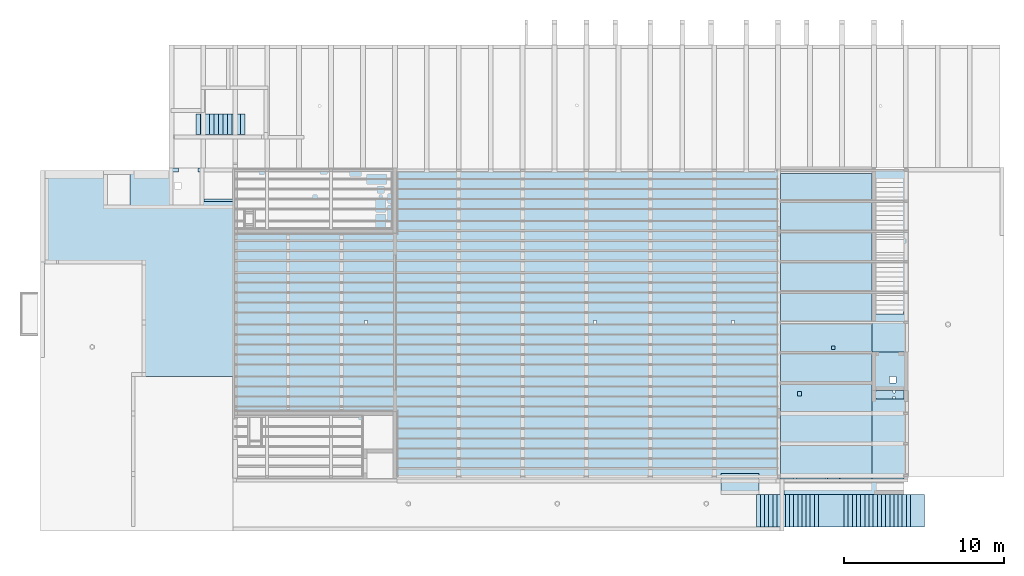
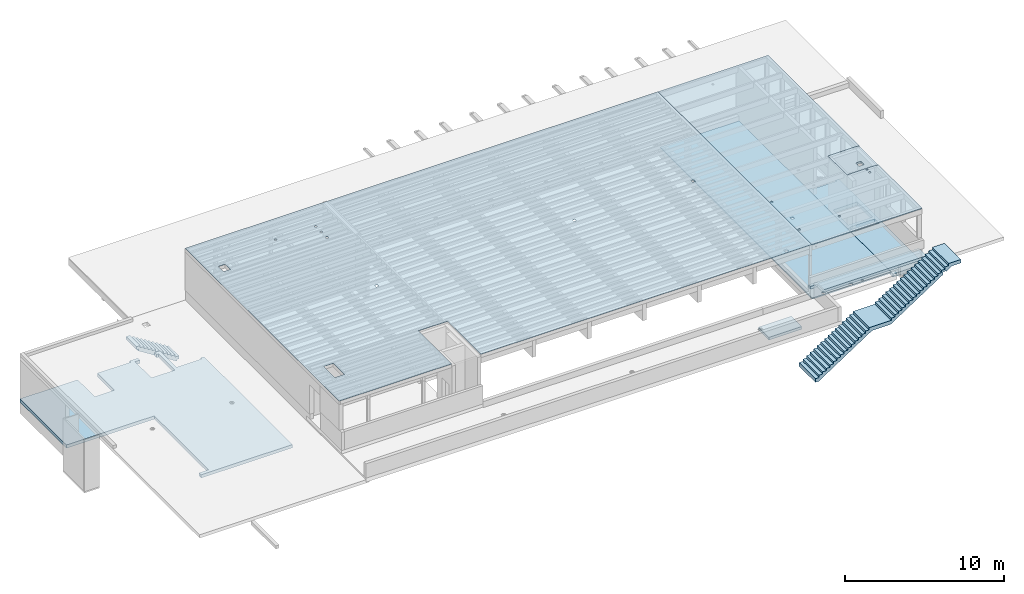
# One storey, part 8 of 14: 10 slabs, 25 openings.
"""IFC2X3 building model written with IfcOpenShell, lengths in metres."""

from ifc_helpers import new_model, entity, si_unit, converted_unit, direction, frame, frame_2d, origin, place, context, subcontext, project, spatial, polyline, circle_curve, parameter, trimmed, segment, composite_curve, rectangle, circle, outline, extrude, boolean, material, layer, layer_set, layer_usage, type_object, element, save


model = new_model("IFC2X3")

# Units and contexts
model_context = context("Model", 3, precision=1e-05, world=frame((30.086303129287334, 2.687674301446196, 462.0)), true_north=direction((0.19008937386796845, 0.9817667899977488)))
body_context = subcontext(model_context, "Body", "Model", "MODEL_VIEW")
ifc_project = project(units=[si_unit("LENGTHUNIT", "METRE"), si_unit("AREAUNIT", "SQUARE_METRE"), converted_unit("PLANEANGLEUNIT", "DEGREE", entity("IfcPlaneAngleMeasure", 0.017453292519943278), si_unit("PLANEANGLEUNIT", "RADIAN"), dimensions=[0, 0, 0, 0, 0, 0, 0]), si_unit("VOLUMEUNIT", "CUBIC_METRE")], contexts=[model_context])

# Site, building, storey
site_placement = place(None, origin())
site = spatial("IfcSite", under=ifc_project, at=site_placement, Name="Default", CompositionType="ELEMENT")
building_placement = place(site_placement, origin())
building = spatial("IfcBuilding", under=site, at=building_placement, CompositionType="ELEMENT")
storey_placement = place(building_placement, origin())
storey = spatial("IfcBuildingStorey", under=building, at=storey_placement, Name="FB_E00_OKFB", CompositionType="ELEMENT", Elevation=0.0)

# Slab, openings
ifc_material_1 = material(Name="WS_CONCRETE_REINFORCED")
ifc_layer_1 = layer(ifc_material_1, 0.24999999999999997)
ifc_layer_set_1 = layer_set([ifc_layer_1], Name="Geschossdecke:WS_SLB_CON_250")
ifc_layer_usage_1 = layer_usage(ifc_layer_set_1, "AXIS3", "POSITIVE", 0.0)
slab_type_1 = type_object("IfcSlabType", Name="Geschossdecke:WS_SLB_CON_250", PredefinedType="FLOOR", material=ifc_layer_set_1)
slab_1_placement = place(storey_placement, frame((37.90533792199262, -14.23464900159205, 0.5299999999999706)))
slab_1 = element("IfcSlab", 1, at=slab_1_placement, inside=storey, type_object=slab_type_1, material=ifc_layer_usage_1, Name="Geschossdecke:WS_SLB_CON_250", ObjectType="Geschossdecke:WS_SLB_CON_250", PredefinedType="FLOOR", context=body_context, shape_type="SweptSolid", body=[
    extrude(outline(polyline([(-0.21249921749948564, 0.5274950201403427), (6.1624997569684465, 0.5274950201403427), (6.1624997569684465, 6.372500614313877), (1.97749142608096, 6.372500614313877), (1.9774914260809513, 4.23253994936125), (0.5525047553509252, 4.2325399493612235), (0.5525047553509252, 6.37250061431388), (-1.8875013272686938, 6.37250061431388), (-1.8875013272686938, 6.532500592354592), (-2.4775009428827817, 6.532500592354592), (-2.4775009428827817, 6.282500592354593), (-3.6975009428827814, 6.282500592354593), (-3.6975009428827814, 6.532500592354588), (-4.087500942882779, 6.532500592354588), (-4.087500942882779, 4.582500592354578), (-6.162499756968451, 4.582500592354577), (-6.162499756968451, -6.532500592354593), (0.4665326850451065, -6.532500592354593), (0.4665326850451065, -6.2825003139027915), (-0.21249921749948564, -6.2825003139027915), (-0.21249921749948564, 0.5274950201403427)])), frame((6.1624997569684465, 6.532500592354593, 0.25000000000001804), z_axis=(0.0, 0.0, -1.0), x_axis=(-1.0, 0.0, 0.0)), (0.0, 0.0, 1.0), 0.25),
])
opening_1_placement = place(slab_1_placement, origin())
element("IfcOpeningElement", 2, at=opening_1_placement, cuts=slab_1, Name="Geschossdecke:WS_SLB_CON_250", ObjectType="Opening", context=body_context, shape_type="SweptSolid", body=[
    extrude(rectangle(XDim=1.699999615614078, YDim=2.04996064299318, at=frame_2d((0.0, 1.1102230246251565e-16), x_axis=(1.0, 0.0))), frame((9.150000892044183, 11.7900208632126, 0.0), z_axis=(0.0, 0.0, 1.0), x_axis=(-1.0, 0.0, 0.0)), (0.0, 0.0, 1.0), 0.24999999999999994),
])
opening_2_placement = place(slab_1_placement, origin())
element("IfcOpeningElement", 3, at=opening_2_placement, cuts=slab_1, Name="Geschossdecke:WS_SLB_CON_250", ObjectType="Opening", context=body_context, shape_type="SweptSolid", body=[
    extrude(rectangle(XDim=1.8249988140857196, YDim=0.13000000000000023, at=frame_2d((4.3298697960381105e-15, 2.706168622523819e-16), x_axis=(1.0, 0.0))), frame((11.16250010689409, 11.050001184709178, 0.13000000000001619), z_axis=(0.0, 0.0, 1.0), x_axis=(-1.0, 0.0, 0.0)), (0.0, 0.0, 1.0), 0.11999999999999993),
])

ifc_layer_usage_2 = layer_usage(ifc_layer_set_1, "AXIS3", "POSITIVE", 0.0)
slab_2_placement = place(storey_placement, frame((89.98033735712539, -20.889559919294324, 3.7349999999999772)))
slab_2 = element("IfcSlab", 4, at=slab_2_placement, inside=storey, type_object=slab_type_1, material=ifc_layer_usage_2, Name="Geschossdecke:WS_SLB_CON_250", ObjectType="Geschossdecke:WS_SLB_CON_250", PredefinedType="FLOOR", context=body_context, shape_type="SweptSolid", body=[
    extrude(outline(polyline([(1.1250006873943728, 5.357455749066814), (-1.1250006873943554, 5.357455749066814), (-1.1250006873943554, -4.952544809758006), (-0.8750006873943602, -4.952544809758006), (-0.8750006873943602, -5.3574557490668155), (1.1250006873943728, -5.3574557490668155), (1.1250006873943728, -0.02688868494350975), (0.8750006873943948, -0.026888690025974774), (0.8750006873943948, 0.3731107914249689), (1.1250006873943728, 0.3731107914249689), (1.1250006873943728, 5.357455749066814)])), frame((1.1250006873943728, 5.3574557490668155, 0.2500000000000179), z_axis=(0.0, 0.0, -1.0), x_axis=(-1.0, 0.0, 0.0)), (0.0, 0.0, 1.0), 0.25),
])
opening_3_placement = place(slab_2_placement, origin())
element("IfcOpeningElement", 5, at=opening_3_placement, cuts=slab_2, Name="Geschossdecke:WS_SLB_CON_250", ObjectType="Opening", context=body_context, shape_type="SweptSolid", body=[
    extrude(rectangle(XDim=1.7500013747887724, YDim=0.5500001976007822, at=frame_2d((-8.659739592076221e-15, -1.0824674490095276e-15), x_axis=(1.0, 0.0))), frame((1.1250006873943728, 5.52991090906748, 0.0), z_axis=(0.0, 0.0, 1.0), x_axis=(-1.0, 0.0, 0.0)), (0.0, 0.0, 1.0), 0.25),
])
opening_4_placement = place(slab_2_placement, origin())
element("IfcOpeningElement", 6, at=opening_4_placement, cuts=slab_2, Name="Geschossdecke:WS_SLB_CON_250", ObjectType="Opening", context=body_context, shape_type="SweptSolid", body=[
    extrude(rectangle(XDim=0.14000000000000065, YDim=1.7500013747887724, at=frame_2d((1.0824674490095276e-15, -8.659739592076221e-15), x_axis=(1.0, 0.0))), frame((1.1250006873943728, 10.644911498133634, 0.129999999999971), z_axis=(0.0, 0.0, 1.0), x_axis=(0.0, 1.0, 0.0)), (0.0, 0.0, 1.0), 0.12000000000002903),
])
opening_5_placement = place(slab_2_placement, origin())
element("IfcOpeningElement", 7, at=opening_5_placement, cuts=slab_2, Name="Geschossdecke:WS_SLB_CON_250", ObjectType="Opening", context=body_context, shape_type="SweptSolid", body=[
    extrude(rectangle(XDim=1.7500013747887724, YDim=1.8999993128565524, at=frame_2d((-8.659739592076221e-15, 1.0547118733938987e-15), x_axis=(1.0, 0.0))), frame((1.1250006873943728, 7.0049106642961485, 0.0), z_axis=(0.0, 0.0, 1.0), x_axis=(-1.0, 0.0, 0.0)), (0.0, 0.0, 1.0), 0.25),
])

# Slabs
ifc_layer_2 = layer(ifc_material_1, 0.2)
ifc_layer_set_2 = layer_set([ifc_layer_2], Name="Geschossdecke:WS_SLB_CON_200")
ifc_layer_usage_3 = layer_usage(ifc_layer_set_2, "AXIS3", "POSITIVE", 0.0)
slab_type_2 = type_object("IfcSlabType", Name="Geschossdecke:WS_SLB_CON_200", PredefinedType="FLOOR", material=ifc_layer_set_2)
slab_3_placement = place(storey_placement, origin())
element("IfcSlab", 8, at=slab_3_placement, inside=storey, type_object=slab_type_2, material=ifc_layer_usage_3, Name="Geschossdecke:WS_SLB_CON_200", ObjectType="Geschossdecke:WS_SLB_CON_200", PredefinedType="FLOOR", context=body_context, shape_type="SweptSolid", body=[
    extrude(rectangle(XDim=1.3150628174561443, YDim=2.3850001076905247, at=frame_2d((2.1649348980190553e-15, 0.0), x_axis=(1.0, 0.0))), frame((81.72783730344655, -20.957124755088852, 2.8599999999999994), z_axis=(0.0, 0.0, -1.0), x_axis=(0.0, 1.0, 0.0)), (0.0, 0.0, 1.0), 0.2),
])
ifc_layer_usage_4 = layer_usage(ifc_layer_set_2, "AXIS3", "POSITIVE", 0.0)
slab_4_placement = place(storey_placement, origin())
element("IfcSlab", 9, at=slab_4_placement, inside=storey, type_object=slab_type_2, material=ifc_layer_usage_4, Name="Geschossdecke:WS_SLB_CON_200", ObjectType="Geschossdecke:WS_SLB_CON_200", PredefinedType="FLOOR", context=body_context, shape_type="SweptSolid", body=[
    extrude(outline(polyline([(0.1583654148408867, -2.8366679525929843), (0.4083654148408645, -2.8366679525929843), (0.4083654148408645, 5.168333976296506), (-0.5667308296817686, 5.168333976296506), (-0.5667308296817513, -2.331666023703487), (0.1583654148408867, -2.331666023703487), (0.1583654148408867, -2.8366679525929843)])), frame((86.81200475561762, -21.04792533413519, 5.119999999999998), z_axis=(0.0, 0.0, -1.0), x_axis=(0.0, 1.0, 0.0)), (0.0, 0.0, 1.0), 0.2),
])

# Slab, opening
ifc_layer_3 = layer(ifc_material_1, 0.14999999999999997)
ifc_layer_set_3 = layer_set([ifc_layer_3], Name="Geschossdecke:WS_SLB_CON_150")
ifc_layer_usage_5 = layer_usage(ifc_layer_set_3, "AXIS3", "POSITIVE", 0.0)
slab_type_3 = type_object("IfcSlabType", Name="Geschossdecke:WS_SLB_CON_150", PredefinedType="FLOOR", material=ifc_layer_set_3)
slab_5_placement = place(storey_placement, origin())
slab_5 = element("IfcSlab", 10, at=slab_5_placement, inside=storey, type_object=slab_type_3, material=ifc_layer_usage_5, Name="Geschossdecke:WS_SLB_CON_150", ObjectType="Geschossdecke:WS_SLB_CON_150", PredefinedType="FLOOR", context=body_context, shape_type="SweptSolid", body=[
    boolean("DIFFERENCE", extrude(rectangle(XDim=2.400000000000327, YDim=2.250001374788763, at=frame_2d((1.1102230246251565e-15, 8.659739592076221e-15), x_axis=(1.0, 0.0))), frame((91.10533804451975, -13.884649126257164, 8.065000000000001), z_axis=(0.0, 0.0, -1.0), x_axis=(0.0, 1.0, 0.0)), (0.0, 0.0, 1.0), 0.15000000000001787), extrude(rectangle(XDim=0.4, YDim=0.3999999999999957, at=frame_2d((-2.1649348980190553e-15, 8.659739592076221e-15), x_axis=(1.0, 0.0))), frame((91.29633345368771, -14.433992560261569, 7.915000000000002), z_axis=(0.0, 0.0, 1.0), x_axis=(0.0, 1.0, 0.0)), (0.0, 0.0, 1.0), 0.14999999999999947)),
])
opening_6_placement = place(slab_5_placement, origin())
element("IfcOpeningElement", 11, at=opening_6_placement, cuts=slab_5, Name="Geschossdecke:WS_SLB_CON_150", ObjectType="Opening", context=body_context, shape_type="SweptSolid", body=[
    extrude(rectangle(XDim=0.3999999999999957, YDim=0.4, at=frame_2d((8.659739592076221e-15, 2.1649348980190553e-15), x_axis=(1.0, 0.0))), frame((91.29633345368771, -14.433992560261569, 7.914999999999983), z_axis=(0.0, 0.0, 1.0), x_axis=(-1.0, 0.0, 0.0)), (0.0, 0.0, 1.0), 0.14999999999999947),
])

# Slab, openings
ifc_material_2 = material(Name="WS_TIMBER_GLT_0°")
ifc_layer_4 = layer(ifc_material_2, 0.06)
ifc_layer_set_4 = layer_set([ifc_layer_4], Name="Geschossdecke:WS_SLB_TIM_60")
ifc_layer_usage_6 = layer_usage(ifc_layer_set_4, "AXIS3", "POSITIVE", 0.0)
slab_type_4 = type_object("IfcSlabType", Name="Geschossdecke:WS_SLB_TIM_60", PredefinedType="FLOOR", material=ifc_layer_set_4)
slab_6_placement = place(storey_placement, origin())
slab_6 = element("IfcSlab", 12, at=slab_6_placement, inside=storey, type_object=slab_type_4, material=ifc_layer_usage_6, Name="Geschossdecke:WS_SLB_TIM_60", ObjectType="Geschossdecke:WS_SLB_TIM_60", PredefinedType="FLOOR", context=body_context, shape_type="SweptSolid", body=[
    extrude(outline(polyline([(-2.5712499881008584, -11.162535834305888), (5.43374998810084, -11.162535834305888), (5.43374998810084, 8.187513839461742), (-2.5712499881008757, 8.187513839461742), (-2.5712499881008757, 2.6875109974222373), (-0.29125001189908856, 2.6875109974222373), (-0.29125001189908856, 0.28751099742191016), (-2.5712499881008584, 0.28751099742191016), (-2.5712499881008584, -11.162535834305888)]), holes=[composite_curve([segment(trimmed(circle_curve(frame_2d((-1.6812499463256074, 2.786854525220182), x_axis=(0.0, -1.0)), 0.07499999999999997), [parameter(179.99999999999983)], [parameter(359.99999999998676)], True, "PARAMETER"), False, "CONTINUOUS"), segment(trimmed(circle_curve(frame_2d((-1.68124994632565, 2.786854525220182), x_axis=(0.0, -1.0)), 0.07499999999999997), [parameter(2.6462214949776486e-11)], [parameter(179.99999999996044)], True, "PARAMETER"), False, "CONTINUOUS")], self_intersect=False), composite_curve([segment(trimmed(circle_curve(frame_2d((-1.6812499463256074, 3.1368545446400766), x_axis=(0.0, -1.0)), 0.07499999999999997), [parameter(179.99999999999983)], [parameter(359.99999999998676)], True, "PARAMETER"), False, "CONTINUOUS"), segment(trimmed(circle_curve(frame_2d((-1.68124994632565, 3.1368545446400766), x_axis=(0.0, -1.0)), 0.07499999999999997), [parameter(2.6462214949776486e-11)], [parameter(179.99999999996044)], True, "PARAMETER"), False, "CONTINUOUS")], self_intersect=False), composite_curve([segment(trimmed(circle_curve(frame_2d((5.288640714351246, 6.35988193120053), x_axis=(0.0, -1.0)), 0.08), [parameter(179.99999999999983)], [parameter(359.9999999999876)], True, "PARAMETER"), False, "CONTINUOUS"), segment(trimmed(circle_curve(frame_2d((5.288640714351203, 6.35988193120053), x_axis=(0.0, -1.0)), 0.08), [parameter(2.4833770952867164e-11)], [parameter(179.99999999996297)], True, "PARAMETER"), False, "CONTINUOUS")], self_intersect=False), composite_curve([segment(trimmed(circle_curve(frame_2d((2.390093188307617, 6.359881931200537), x_axis=(0.0, -1.0)), 0.08), [parameter(179.99999999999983)], [parameter(359.9999999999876)], True, "PARAMETER"), False, "CONTINUOUS"), segment(trimmed(circle_curve(frame_2d((2.39009318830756, 6.359881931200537), x_axis=(0.0, -1.0)), 0.08), [parameter(2.4833770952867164e-11)], [parameter(179.99999999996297)], True, "PARAMETER"), False, "CONTINUOUS")], self_intersect=False), composite_curve([segment(trimmed(circle_curve(frame_2d((5.288639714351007, 2.878092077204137), x_axis=(0.0, -1.0)), 0.08), [parameter(179.99999999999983)], [parameter(359.9999999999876)], True, "PARAMETER"), False, "CONTINUOUS"), segment(trimmed(circle_curve(frame_2d((5.28863971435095, 2.878092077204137), x_axis=(0.0, -1.0)), 0.08), [parameter(2.4833770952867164e-11)], [parameter(179.99999999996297)], True, "PARAMETER"), False, "CONTINUOUS")], self_intersect=False)]), frame((89.6890873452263, -12.397138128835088, 8.004999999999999), z_axis=(0.0, 0.0, 1.0), x_axis=(-1.0, 0.0, 0.0)), (0.0, 0.0, 1.0), 0.060000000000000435),
])
opening_7_placement = place(slab_6_placement, origin())
element("IfcOpeningElement", 13, at=opening_7_placement, cuts=slab_6, Name="Geschossdecke:WS_SLB_TIM_60", ObjectType="Opening", context=body_context, shape_type="SweptSolid", body=[
    extrude(circle(Radius=0.07499999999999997, at=frame_2d((1.0609038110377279e-30, -1.7325874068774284e-14), x_axis=(1.0, 0.0))), frame((91.37033729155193, -15.18399265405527, 8.005000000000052), z_axis=(0.0, 0.0, 1.0), x_axis=(0.0, 1.0, 0.0)), (0.0, 0.0, 1.0), 0.060000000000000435),
])
opening_8_placement = place(slab_6_placement, origin())
element("IfcOpeningElement", 14, at=opening_8_placement, cuts=slab_6, Name="Geschossdecke:WS_SLB_TIM_60", ObjectType="Opening", context=body_context, shape_type="SweptSolid", body=[
    extrude(circle(Radius=0.07499999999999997, at=frame_2d((1.0609038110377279e-30, -1.7325874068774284e-14), x_axis=(1.0, 0.0))), frame((91.37033729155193, -15.533992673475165, 8.005000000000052), z_axis=(0.0, 0.0, 1.0), x_axis=(0.0, 1.0, 0.0)), (0.0, 0.0, 1.0), 0.060000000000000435),
])
opening_9_placement = place(slab_6_placement, origin())
element("IfcOpeningElement", 15, at=opening_9_placement, cuts=slab_6, Name="Geschossdecke:WS_SLB_TIM_60", ObjectType="Opening", context=body_context, shape_type="SweptSolid", body=[
    extrude(circle(Radius=0.08, at=frame_2d((1.0609038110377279e-30, -1.7325874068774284e-14), x_axis=(1.0, 0.0))), frame((84.40044663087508, -18.757020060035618, 8.005000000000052), z_axis=(0.0, 0.0, 1.0), x_axis=(0.0, 1.0, 0.0)), (0.0, 0.0, 1.0), 0.060000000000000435),
])
opening_10_placement = place(slab_6_placement, origin())
element("IfcOpeningElement", 16, at=opening_10_placement, cuts=slab_6, Name="Geschossdecke:WS_SLB_TIM_60", ObjectType="Opening", context=body_context, shape_type="SweptSolid", body=[
    extrude(circle(Radius=0.08, at=frame_2d((1.0609038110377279e-30, -1.7325874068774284e-14), x_axis=(1.0, 0.0))), frame((87.29899415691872, -18.757020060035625, 8.005000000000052), z_axis=(0.0, 0.0, 1.0), x_axis=(0.0, 1.0, 0.0)), (0.0, 0.0, 1.0), 0.060000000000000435),
])
opening_11_placement = place(slab_6_placement, origin())
element("IfcOpeningElement", 17, at=opening_11_placement, cuts=slab_6, Name="Geschossdecke:WS_SLB_TIM_60", ObjectType="Opening", context=body_context, shape_type="SweptSolid", body=[
    extrude(circle(Radius=0.08, at=frame_2d((1.0609038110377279e-30, -1.7325874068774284e-14), x_axis=(1.0, 0.0))), frame((84.40044763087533, -15.275230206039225, 8.005000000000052), z_axis=(0.0, 0.0, 1.0), x_axis=(0.0, 1.0, 0.0)), (0.0, 0.0, 1.0), 0.060000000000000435),
])

ifc_layer_5 = layer(ifc_material_2, 0.09)
ifc_layer_set_5 = layer_set([ifc_layer_5], Name="Geschossdecke:WS_SLB_TIM_90")
ifc_layer_usage_7 = layer_usage(ifc_layer_set_5, "AXIS3", "POSITIVE", 0.0)
slab_type_5 = type_object("IfcSlabType", Name="Geschossdecke:WS_SLB_TIM_90", PredefinedType="FLOOR", material=ifc_layer_set_5)
slab_7_placement = place(storey_placement, frame((84.2553373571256, -20.639559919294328, 3.894999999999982)))
slab_7 = element("IfcSlab", 18, at=slab_7_placement, inside=storey, type_object=slab_type_5, material=ifc_layer_usage_7, Name="Geschossdecke:WS_SLB_TIM_90", ObjectType="Geschossdecke:WS_SLB_TIM_90", PredefinedType="FLOOR", context=body_context, shape_type="SweptSolid", body=[
    extrude(outline(polyline([(-2.862499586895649, -9.56247881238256), (2.86249997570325, -9.562478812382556), (2.86249997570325, 9.562478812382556), (-2.86249997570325, 9.562478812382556), (-2.862499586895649, -9.56247881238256)])), frame((2.86249997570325, 9.56247881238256, 0.09000000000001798), z_axis=(0.0, 0.0, -1.0), x_axis=(-1.0, 0.0, 0.0)), (0.0, 0.0, 1.0), 0.09000000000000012),
])
opening_12_placement = place(slab_7_placement, origin())
element("IfcOpeningElement", 19, at=opening_12_placement, cuts=slab_7, Name="Geschossdecke:WS_SLB_TIM_90", ObjectType="Opening", context=body_context, shape_type="SweptSolid", body=[
    extrude(rectangle(XDim=0.21000000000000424, YDim=0.2099999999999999, at=frame_2d((8.659739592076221e-15, 0.0), x_axis=(1.0, 0.0))), frame((3.300000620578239, 8.224914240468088, 0.0), z_axis=(0.0, 0.0, 1.0), x_axis=(-1.0, 0.0, 0.0)), (0.0, 0.0, 1.0), 0.09000000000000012),
])
opening_13_placement = place(slab_7_placement, origin())
element("IfcOpeningElement", 20, at=opening_13_placement, cuts=slab_7, Name="Geschossdecke:WS_SLB_TIM_90", ObjectType="Opening", context=body_context, shape_type="SweptSolid", body=[
    extrude(rectangle(XDim=0.2599999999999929, YDim=0.25999999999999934, at=frame_2d((8.673617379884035e-15, 1.096345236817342e-15), x_axis=(1.0, 0.0))), frame((1.1814997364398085, 5.332414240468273, 0.0), z_axis=(0.0, 0.0, 1.0), x_axis=(-1.0, 0.0, 0.0)), (0.0, 0.0, 1.0), 0.09000000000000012),
])
opening_14_placement = place(slab_7_placement, origin())
element("IfcOpeningElement", 21, at=opening_14_placement, cuts=slab_7, Name="Geschossdecke:WS_SLB_TIM_90", ObjectType="Opening", context=body_context, shape_type="SweptSolid", body=[
    extrude(circle(Radius=0.12499999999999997, at=frame_2d((0.0, -1.7325874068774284e-14), x_axis=(1.0, 0.0))), frame((2.870000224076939, 0.1549999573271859, -0.009999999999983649)), (0.0, 0.0, 1.0), 0.15000000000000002),
])
opening_15_placement = place(slab_7_placement, origin())
element("IfcOpeningElement", 22, at=opening_15_placement, cuts=slab_7, Name="Geschossdecke:WS_SLB_TIM_90", ObjectType="Opening", context=body_context, shape_type="SweptSolid", body=[
    extrude(circle(Radius=0.12499999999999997, at=frame_2d((0.0, -1.7325874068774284e-14), x_axis=(1.0, 0.0))), frame((0.9100001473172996, 0.1549999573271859, -0.009999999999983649)), (0.0, 0.0, 1.0), 0.15000000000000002),
])
opening_16_placement = place(slab_7_placement, origin())
element("IfcOpeningElement", 23, at=opening_16_placement, cuts=slab_7, Name="Geschossdecke:WS_SLB_TIM_90", ObjectType="Opening", context=body_context, shape_type="SweptSolid", body=[
    extrude(circle(Radius=0.09000000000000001, at=frame_2d((0.0, -1.7325874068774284e-14), x_axis=(1.0, 0.0))), frame((3.7200002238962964, 0.1556564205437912, -0.009999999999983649)), (0.0, 0.0, 1.0), 0.15000000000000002),
])

ifc_material_3 = material(Name="WS_TIMBER_GLT_90°")
ifc_layer_6 = layer(ifc_material_3, 0.025)
ifc_layer_set_6 = layer_set([ifc_layer_6], Name="Geschossdecke:WS_SLB_TIM_25")
ifc_layer_usage_8 = layer_usage(ifc_layer_set_6, "AXIS3", "POSITIVE", 0.0)
slab_type_6 = type_object("IfcSlabType", Name="Geschossdecke:WS_SLB_TIM_25", PredefinedType="FLOOR", material=ifc_layer_set_6)
slab_8_placement = place(storey_placement, frame((49.950337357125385, -20.584651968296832, 8.039999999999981)))
slab_8 = element("IfcSlab", 24, at=slab_8_placement, inside=storey, type_object=slab_type_6, material=ifc_layer_usage_8, Name="Geschossdecke:WS_SLB_TIM_25", ObjectType="Geschossdecke:WS_SLB_TIM_25", PredefinedType="FLOOR", context=body_context, shape_type="SweptSolid", body=[
    extrude(outline(polyline([(-17.152500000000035, 9.675024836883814), (-17.152500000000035, -9.675024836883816), (6.872026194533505, -9.675024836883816), (6.872026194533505, -5.500021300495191), (8.982499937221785, -5.500021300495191), (8.982499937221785, -9.674970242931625), (17.152500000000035, -9.674970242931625), (17.152500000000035, 9.675024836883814), (-17.152500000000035, 9.675024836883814)])), frame((17.152500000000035, 9.675024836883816, 0.02500000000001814), z_axis=(0.0, 0.0, -1.0), x_axis=(-1.0, 0.0, 0.0)), (0.0, 0.0, 1.0), 0.02499999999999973),
])
opening_17_placement = place(slab_8_placement, origin())
element("IfcOpeningElement", 25, at=opening_17_placement, cuts=slab_8, Name="Geschossdecke:WS_SLB_TIM_25", ObjectType="Opening", context=body_context, shape_type="SweptSolid", body=[
    extrude(rectangle(XDim=0.7000000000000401, YDim=1.4000000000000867, at=frame_2d((4.3298697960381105e-15, 1.1102230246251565e-15), x_axis=(1.0, 0.0))), frame((1.4008699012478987, 3.0724881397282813, 0.0), z_axis=(0.0, 0.0, 1.0), x_axis=(-1.0, 0.0, 0.0)), (0.0, 0.0, 1.0), 0.02499999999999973),
])
opening_18_placement = place(slab_8_placement, origin())
element("IfcOpeningElement", 26, at=opening_18_placement, cuts=slab_8, Name="Geschossdecke:WS_SLB_TIM_25", ObjectType="Opening", context=body_context, shape_type="SweptSolid", body=[
    extrude(rectangle(XDim=0.6500000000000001, YDim=0.499999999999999, at=frame_2d((-2.7755575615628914e-16, -4.343747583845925e-15), x_axis=(1.0, 0.0))), frame((1.0450000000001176, 16.243774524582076, 0.0), z_axis=(0.0, 0.0, 1.0), x_axis=(0.0, -1.0, 0.0)), (0.0, 0.0, 1.0), 0.02499999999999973),
])
opening_19_placement = place(slab_8_placement, origin())
element("IfcOpeningElement", 27, at=opening_19_placement, cuts=slab_8, Name="Geschossdecke:WS_SLB_TIM_25", ObjectType="Opening", context=body_context, shape_type="SweptSolid", body=[
    extrude(circle(Radius=0.08, at=frame_2d((1.0609038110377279e-30, -1.7325874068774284e-14), x_axis=(1.0, 0.0))), frame((5.37530472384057, 17.308199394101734, -0.03499999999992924), z_axis=(0.0, 0.0, 1.0), x_axis=(0.0, 1.0, 0.0)), (0.0, 0.0, 1.0), 0.060000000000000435),
])
opening_20_placement = place(slab_8_placement, origin())
element("IfcOpeningElement", 28, at=opening_20_placement, cuts=slab_8, Name="Geschossdecke:WS_SLB_TIM_25", ObjectType="Opening", context=body_context, shape_type="SweptSolid", body=[
    extrude(circle(Radius=0.08, at=frame_2d((1.0609038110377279e-30, -1.7325874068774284e-14), x_axis=(1.0, 0.0))), frame((8.291771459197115, 17.308199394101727, -0.03499999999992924), z_axis=(0.0, 0.0, 1.0), x_axis=(0.0, 1.0, 0.0)), (0.0, 0.0, 1.0), 0.060000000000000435),
])
opening_21_placement = place(slab_8_placement, origin())
element("IfcOpeningElement", 29, at=opening_21_placement, cuts=slab_8, Name="Geschossdecke:WS_SLB_TIM_25", ObjectType="Opening", context=body_context, shape_type="SweptSolid", body=[
    extrude(circle(Radius=0.08, at=frame_2d((1.0609038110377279e-30, -1.7325874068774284e-14), x_axis=(1.0, 0.0))), frame((8.291771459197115, 16.608199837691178, -0.03499999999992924), z_axis=(0.0, 0.0, 1.0), x_axis=(0.0, 1.0, 0.0)), (0.0, 0.0, 1.0), 0.060000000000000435),
])
opening_22_placement = place(slab_8_placement, origin())
element("IfcOpeningElement", 30, at=opening_22_placement, cuts=slab_8, Name="Geschossdecke:WS_SLB_TIM_25", ObjectType="Opening", context=body_context, shape_type="SweptSolid", body=[
    extrude(rectangle(XDim=0.19999999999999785, YDim=0.2000025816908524, at=frame_2d((4.3298697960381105e-15, 0.0), x_axis=(1.0, 0.0))), frame((8.355000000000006, 9.762546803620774, 0.0), z_axis=(0.0, 0.0, 1.0), x_axis=(-1.0, 0.0, 0.0)), (0.0, 0.0, 1.0), 0.02499999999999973),
])
opening_23_placement = place(slab_8_placement, origin())
element("IfcOpeningElement", 31, at=opening_23_placement, cuts=slab_8, Name="Geschossdecke:WS_SLB_TIM_25", ObjectType="Opening", context=body_context, shape_type="SweptSolid", body=[
    extrude(rectangle(XDim=0.19999999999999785, YDim=0.2000025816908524, at=frame_2d((4.3298697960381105e-15, 0.0), x_axis=(1.0, 0.0))), frame((22.69521392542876, 9.76254680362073, 0.0), z_axis=(0.0, 0.0, 1.0), x_axis=(-1.0, 0.0, 0.0)), (0.0, 0.0, 1.0), 0.02499999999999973),
])
opening_24_placement = place(slab_8_placement, origin())
element("IfcOpeningElement", 32, at=opening_24_placement, cuts=slab_8, Name="Geschossdecke:WS_SLB_TIM_25", ObjectType="Opening", context=body_context, shape_type="SweptSolid", body=[
    extrude(rectangle(XDim=0.2000000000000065, YDim=0.2000025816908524, at=frame_2d((-8.659739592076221e-15, 0.0), x_axis=(1.0, 0.0))), frame((31.32431150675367, 9.762546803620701, 0.0), z_axis=(0.0, 0.0, 1.0), x_axis=(-1.0, 0.0, 0.0)), (0.0, 0.0, 1.0), 0.02499999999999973),
])
opening_25_placement = place(slab_8_placement, origin())
element("IfcOpeningElement", 33, at=opening_25_placement, cuts=slab_8, Name="Geschossdecke:WS_SLB_TIM_25", ObjectType="Opening", context=body_context, shape_type="SweptSolid", body=[
    extrude(circle(Radius=0.09999999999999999, at=frame_2d((1.0609038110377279e-30, -1.7325874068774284e-14), x_axis=(1.0, 0.0))), frame((8.291771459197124, 15.907543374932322, -0.03499999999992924), z_axis=(0.0, 0.0, 1.0), x_axis=(0.0, 1.0, 0.0)), (0.0, 0.0, 1.0), 0.060000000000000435),
])

# Slabs
slab_type_7 = type_object("IfcSlabType", Name="Ortbetontreppe:Ortbetontreppe", PredefinedType="FLOOR", material=ifc_material_1)
slab_9_placement = place(storey_placement, origin())
element("IfcSlab", 34, at=slab_9_placement, inside=storey, type_object=slab_type_7, Name="Ortbetontreppe:Ortbetontreppe", ObjectType="Ortbetontreppe:Ortbetontreppe", PredefinedType="FLOOR", context=body_context, shape_type="SweptSolid", body=[
    extrude(outline(polyline([(-5.177974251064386, -2.772013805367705), (-5.177974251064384, -3.0623263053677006), (-4.897974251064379, -3.0623263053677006), (-4.897974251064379, -3.0218797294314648), (-1.07450920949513, -0.5173263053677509), (0.2654731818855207, -0.517337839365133), (4.0620039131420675, 1.9695723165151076), (4.0620039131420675, 2.1776736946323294), (4.312003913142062, 2.1776736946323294), (4.312003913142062, 2.1333343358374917), (4.739893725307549, 2.4129564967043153), (5.371992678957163, 2.4129564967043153), (5.371958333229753, 2.6779564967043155), (4.4819816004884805, 2.6779564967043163), (4.482003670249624, 2.507673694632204), (4.222003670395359, 2.507673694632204), (4.22202574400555, 2.337361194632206), (3.9620257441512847, 2.3373611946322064), (3.962025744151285, 2.1670486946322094), (3.702003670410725, 2.1670486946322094), (3.702025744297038, 1.9967361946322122), (3.4420036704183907, 1.9967361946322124), (3.4420257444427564, 1.8264236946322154), (3.1820036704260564, 1.8264236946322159), (3.1820257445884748, 1.6561111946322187), (2.922003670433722, 1.6561111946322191), (2.9220257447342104, 1.485798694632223), (2.6620036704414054, 1.4857986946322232), (2.662025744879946, 1.3154861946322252), (2.4020036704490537, 1.3154861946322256), (2.4020257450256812, 1.1451736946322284), (2.1420036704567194, 1.1451736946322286), (2.1420257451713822, 0.9748611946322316), (1.882025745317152, 0.9748611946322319), (1.8820257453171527, 0.8045486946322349), (1.6220257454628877, 0.8045486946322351), (1.6220257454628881, 0.634236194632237), (1.3620036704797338, 0.6342361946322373), (1.3620257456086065, 0.4639236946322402), (1.1020257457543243, 0.4639236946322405), (1.1020257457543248, 0.2936111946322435), (0.84202574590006, 0.2936111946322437), (0.8420257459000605, 0.1232986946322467), (0.5820036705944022, 0.12329869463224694), (0.5820257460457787, -0.047013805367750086), (0.3220257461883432, -0.04701380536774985), (0.3220257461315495, -0.2173263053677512), (-1.2779963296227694, -0.217326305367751), (-1.2779742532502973, -0.387638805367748), (-1.5379963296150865, -0.38763880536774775), (-1.537974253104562, -0.5579513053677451), (-1.797996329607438, -0.5579513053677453), (-1.7979742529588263, -0.7282638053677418), (-2.057996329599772, -0.7282638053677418), (-2.0579742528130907, -0.8985763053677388), (-2.317996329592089, -0.8985763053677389), (-2.3179742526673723, -1.0688888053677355), (-2.577996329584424, -1.0688888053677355), (-2.5779742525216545, -1.2392013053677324), (-2.8379963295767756, -1.2392013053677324), (-2.837974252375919, -1.409513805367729), (-3.0979963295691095, -1.409513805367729), (-3.097974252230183, -1.579826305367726), (-3.3579963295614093, -1.579826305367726), (-3.3579742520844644, -1.7501388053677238), (-3.617996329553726, -1.7501388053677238), (-3.617974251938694, -1.9204513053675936), (-3.8779742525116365, -1.9204513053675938), (-3.877974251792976, -2.0907638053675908), (-4.137974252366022, -2.0907638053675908), (-4.1379742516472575, -2.2610763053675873), (-4.3979963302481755, -2.2610763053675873), (-4.397974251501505, -2.431388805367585), (-4.657996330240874, -2.431388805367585), (-4.657974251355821, -2.6017013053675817), (-4.9179963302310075, -2.6017013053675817), (-4.917975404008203, -2.772013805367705), (-5.177974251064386, -2.772013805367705)])), frame((87.91833481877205, -23.664656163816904, 2.942326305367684), z_axis=(0.0, -1.0, 0.0), x_axis=(1.0, 0.0, 0.0)), (0.0, 0.0, -1.0), 2.0499999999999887),
])
ifc_material_4 = material(Name="WS_CONCRETE_REINFORCED_PRECAST")
slab_type_8 = type_object("IfcSlabType", Name="Treppe:Treppe", PredefinedType="FLOOR", material=ifc_material_4)
slab_10_placement = place(storey_placement, origin())
element("IfcSlab", 35, at=slab_10_placement, inside=storey, type_object=slab_type_8, Name="Treppe:Treppe", ObjectType="Treppe:Treppe", PredefinedType="FLOOR", context=body_context, shape_type="SweptSolid", body=[
    extrude(outline(polyline([(-1.8238265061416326, -0.26243865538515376), (1.4911445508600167, -0.2624386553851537), (1.5661074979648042, -0.14419925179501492), (1.6842988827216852, -0.21913175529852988), (1.8074522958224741, -0.02488130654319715), (1.5709734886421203, 0.12504458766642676), (1.4759311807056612, -0.02486608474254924), (1.2394523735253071, 0.12505980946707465), (1.1444100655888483, -0.02485086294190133), (0.9079312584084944, 0.12507503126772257), (0.8128889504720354, -0.02483564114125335), (0.5765541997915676, 0.12499892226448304), (0.4815118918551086, -0.024911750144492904), (0.24503308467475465, 0.12501414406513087), (0.14999077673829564, -0.024896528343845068), (-0.08648803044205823, 0.1250293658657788), (-0.1815303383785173, -0.024881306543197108), (-0.4180091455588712, 0.12504458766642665), (-0.5130514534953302, -0.024866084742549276), (-0.7495302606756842, 0.1250598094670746), (-0.8445725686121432, -0.02485086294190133), (-1.080907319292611, 0.1249837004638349), (-1.1759496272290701, -0.024926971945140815), (-1.412428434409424, 0.12499892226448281), (-1.5074707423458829, -0.024911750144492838), (-1.7439495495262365, 0.12501414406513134), (-1.8671029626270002, -0.0692363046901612), (-1.7488635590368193, -0.14419925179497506), (-1.8238265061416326, -0.26243865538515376)])), frame((49.19051542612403, 0.9203516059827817, -0.9467857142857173), z_axis=(0.0, 1.0, 0.0), x_axis=(-0.8445671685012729, 0.0, 0.535449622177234)), (0.0, 0.0, 1.0), 1.2924999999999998),
])

save(model, "model.ifc")
